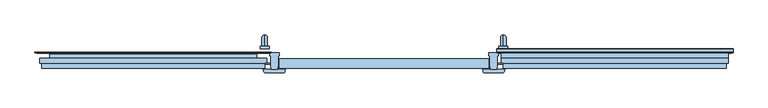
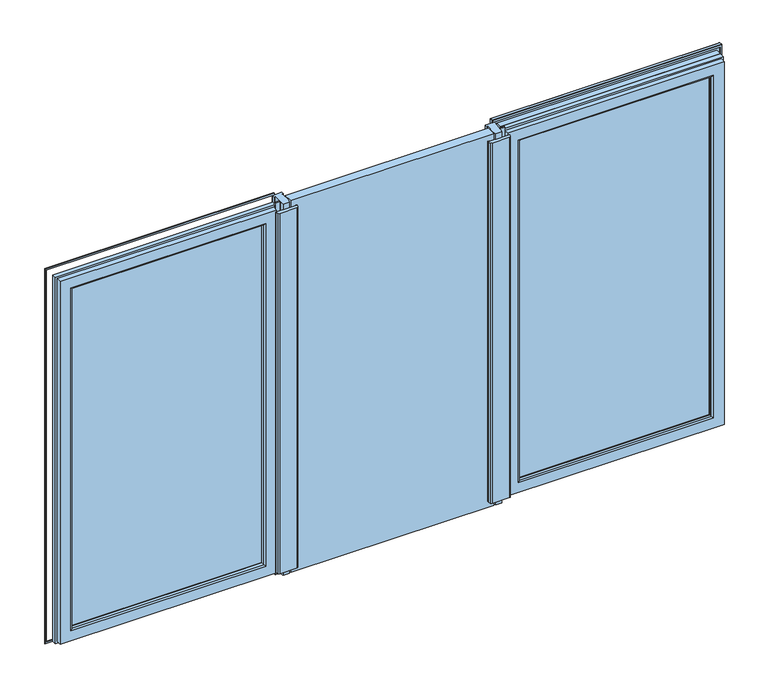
"""IFC4 building model written with IfcOpenShell, lengths in millimetres: window geometry, BZ1_Windows_Opening-Hinge_S9000_Three-Piece-Window-Turn-Tilt : Windows_Opening-Hinge_S9000_Three-Piece-Window-Turn-Tilt."""

from ifc_helpers import new_model, si_unit, frame, origin, place, context, project, spatial, polyline, circle_curve, ellipse_curve, outline, extrude, source, transform, mapped, element, save
from ifc_brep_helpers import plane_surface, cylinder_surface, advanced_brep


def window_0894faee(model_context):
    return source(origin(), model_context, "Body", "SolidModel", [
        advanced_brep(
        [(495.3666667, 128.5, 1781.5), (495.3666667, 128.5, 1758.5), (495.3666667, 152.0, 1758.5), (495.3666667, 175.0, 1781.5), (495.3666667, 175.0, 1653.0), (495.3666667, 152.0, 1653.0)],
        [
            (0, 1, circle_curve(frame((495.3666667, 128.5, 1770.0), z_axis=(0.0, -1.0, 0.0), x_axis=(0.0, 0.0, -1.0)), 11.5)),
            (1, 0, circle_curve(frame((495.3666667, 128.5, 1770.0), z_axis=(0.0, -1.0, 0.0), x_axis=(0.0, 0.0, -1.0)), 11.5)),
            (1, 2),
            (2, 3, ellipse_curve(frame((495.3666667, 163.5, 1770.0), z_axis=(0.0, -0.7071067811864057, 0.7071067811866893), x_axis=(0.0, -0.7071067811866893, -0.7071067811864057)), 16.263456, 11.5)),
            (3, 0),
            (3, 2, ellipse_curve(frame((495.3666667, 163.5, 1770.0), z_axis=(0.0, -0.7071067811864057, 0.7071067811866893), x_axis=(0.0, -0.7071067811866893, -0.7071067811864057)), 16.263456, 11.5)),
            (4, 5, circle_curve(frame((495.3666667, 163.5, 1653.0), z_axis=(0.0, 0.0, -1.0), x_axis=(0.0, -1.0, 0.0)), 11.5)),
            (5, 4, circle_curve(frame((495.3666667, 163.5, 1653.0), z_axis=(0.0, 0.0, -1.0), x_axis=(0.0, -1.0, 0.0)), 11.5)),
            (2, 5),
            (4, 3),
        ],
        [
            plane_surface(frame((495.3666667, 128.5, 1770.0), z_axis=(0.0, -1.0, 0.0), x_axis=(1.0, 0.0, 0.0))),
            cylinder_surface(frame((495.3666667, 128.5, 1770.0), z_axis=(0.0, -1.0, 0.0), x_axis=(0.0, 0.0, -1.0)), 11.5),
            plane_surface(frame((495.3666667, 163.5, 1653.0), z_axis=(0.0, 0.0, -1.0), x_axis=(1.0, 0.0, 0.0))),
            cylinder_surface(frame((495.3666667, 163.5, 1770.0), z_axis=(0.0, 0.0, 1.0), x_axis=(0.0, -1.0, 0.0)), 11.5),
        ],
        [
            (0, [[1, 2]]),
            (1, [[3, 4, 5, -2]]),
            (1, [[-5, 6, -3, -1]]),
            (2, [[7, 8]]),
            (3, [[9, -7, 10, -4]]),
            (3, [[-10, -8, -9, -6]]),
        ],
    ),
        extrude(outline(polyline([(513.8666667, 118.5), (476.8666667, 118.5), (476.8666667, 128.5), (513.8666667, 128.5), (513.8666667, 118.5)])), frame((0.0, 0.0, 1711.0), z_axis=(0.0, 0.0, 1.0), x_axis=(1.0, 0.0, 0.0)), (0.0, 0.0, 1.0), 118.0),
        advanced_brep(
        [(-495.4, 128.5, 1781.5), (-495.4, 128.5, 1758.5), (-495.4, 152.0, 1758.5), (-495.4, 175.0, 1781.5), (-495.4, 175.0, 1653.0), (-495.4, 152.0, 1653.0)],
        [
            (0, 1, circle_curve(frame((-495.4, 128.5, 1770.0), z_axis=(0.0, -1.0, 0.0), x_axis=(0.0, 0.0, -1.0)), 11.5)),
            (1, 0, circle_curve(frame((-495.4, 128.5, 1770.0), z_axis=(0.0, -1.0, 0.0), x_axis=(0.0, 0.0, -1.0)), 11.5)),
            (1, 2),
            (2, 3, ellipse_curve(frame((-495.4, 163.5, 1770.0), z_axis=(0.0, -0.7071067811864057, 0.7071067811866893), x_axis=(0.0, -0.7071067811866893, -0.7071067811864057)), 16.263456, 11.5)),
            (3, 0),
            (3, 2, ellipse_curve(frame((-495.4, 163.5, 1770.0), z_axis=(0.0, -0.7071067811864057, 0.7071067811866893), x_axis=(0.0, -0.7071067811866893, -0.7071067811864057)), 16.263456, 11.5)),
            (4, 5, circle_curve(frame((-495.4, 163.5, 1653.0), z_axis=(0.0, 0.0, -1.0), x_axis=(0.0, -1.0, 0.0)), 11.5)),
            (5, 4, circle_curve(frame((-495.4, 163.5, 1653.0), z_axis=(0.0, 0.0, -1.0), x_axis=(0.0, -1.0, 0.0)), 11.5)),
            (2, 5),
            (4, 3),
        ],
        [
            plane_surface(frame((-495.4, 128.5, 1770.0), z_axis=(0.0, -1.0, 0.0), x_axis=(1.0, 0.0, 0.0))),
            cylinder_surface(frame((-495.4, 128.5, 1770.0), z_axis=(0.0, -1.0, 0.0), x_axis=(0.0, 0.0, -1.0)), 11.5),
            plane_surface(frame((-495.4, 163.5, 1653.0), z_axis=(0.0, 0.0, -1.0), x_axis=(1.0, 0.0, 0.0))),
            cylinder_surface(frame((-495.4, 163.5, 1770.0), z_axis=(0.0, 0.0, 1.0), x_axis=(0.0, -1.0, 0.0)), 11.5),
        ],
        [
            (0, [[1, 2]]),
            (1, [[3, 4, 5, -2]]),
            (1, [[-5, 6, -3, -1]]),
            (2, [[7, 8]]),
            (3, [[9, -7, 10, -4]]),
            (3, [[-10, -8, -9, -6]]),
        ],
    ),
        extrude(outline(polyline([(-476.9, 118.5), (-513.9, 118.5), (-513.9, 128.5), (-476.9, 128.5), (-476.9, 118.5)])), frame((0.0, 0.0, 1711.0), z_axis=(0.0, 0.0, 1.0), x_axis=(1.0, 0.0, 0.0)), (0.0, 0.0, 1.0), 118.0),
        extrude(outline(polyline([(-434.4, 36.0), (-434.4, 76.0), (434.4, 76.0), (434.4, 36.0), (-434.4, 36.0)])), frame((0.0, 0.0, 928.0), z_axis=(0.0, 0.0, 1.0), x_axis=(1.0, 0.0, 0.0)), (0.0, 0.0, 1.0), 1684.0),
        extrude(outline(polyline([(439.4, 46.5113286), (439.4, 88.75), (435.3, 88.75), (435.3, 100.0), (475.3000009, 100.0), (475.3000009, 88.75), (471.2000009, 88.75), (471.2000009, 46.5113286), (468.221801, 32.5), (442.3781998, 32.5), (439.4, 46.5113286)])), frame((0.0, 0.0, 928.0), z_axis=(0.0, 0.0, 1.0), x_axis=(1.0, 0.0, 0.0)), (0.0, 0.0, 1.0), 1684.0),
        advanced_brep(
        [(492.9521751, 17.5, 954.0), (417.6478258, 17.5, 954.0), (411.8522708, 21.9470857, 954.0), (409.3, 31.47229, 954.0), (409.3, 32.5, 954.0), (501.3000009, 32.5, 954.0), (501.3, 31.47229, 954.0), (498.7477301, 21.9470857, 954.0), (492.9521751, 17.5, 2586.0), (498.7477301, 21.9470857, 2586.0), (501.3000009, 31.47229, 2586.0), (501.3, 32.5, 2586.0), (409.3, 32.5, 2586.0), (409.3, 31.47229, 2586.0), (411.8522708, 21.9470857, 2586.0), (417.6478258, 17.5, 2586.0)],
        [
            (0, 1),
            (1, 2, circle_curve(frame((417.6478258, 23.5, 954.0), z_axis=(0.0, 0.0, -1.0), x_axis=(0.0, -1.0, 0.0)), 6.0)),
            (2, 3),
            (3, 4),
            (4, 5),
            (5, 6),
            (6, 7),
            (7, 0, circle_curve(frame((492.9521751, 23.5, 954.0), z_axis=(0.0, 0.0, -1.0), x_axis=(0.9659258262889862, -0.2588190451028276, 0.0)), 6.0)),
            (8, 9, circle_curve(frame((492.9521751, 23.5, 2586.0), z_axis=(0.0, 0.0, 1.0), x_axis=(0.9659258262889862, -0.2588190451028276, 0.0)), 6.0)),
            (9, 10),
            (10, 11),
            (11, 12),
            (12, 13),
            (13, 14),
            (14, 15, circle_curve(frame((417.6478258, 23.5, 2586.0), z_axis=(0.0, 0.0, 1.0), x_axis=(0.0, -1.0, 0.0)), 6.0)),
            (15, 8),
            (7, 9),
            (8, 0),
            (6, 10),
            (5, 11),
            (4, 12),
            (3, 13),
            (2, 14),
            (1, 15),
        ],
        [
            plane_surface(frame((455.3, 100.0, 954.0), z_axis=(0.0, 0.0, -1.0), x_axis=(1.0, 0.0, 0.0))),
            plane_surface(frame((455.3, 100.0, 2586.0), z_axis=(0.0, 0.0, 1.0), x_axis=(1.0, 0.0, 0.0))),
            cylinder_surface(frame((492.9521751, 23.5, 954.0), z_axis=(0.0, 0.0, -1.0000000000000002), x_axis=(0.9659258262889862, -0.2588190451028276, 0.0)), 6.0),
            plane_surface(frame((498.7477301, 21.9470857, 954.0), z_axis=(0.9659258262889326, -0.25881904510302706, 0.0), x_axis=(0.0, 0.0, 1.0))),
            plane_surface(frame((501.3, 31.47229, 954.0), z_axis=(1.0, 0.0, 0.0), x_axis=(0.0, 0.0, 1.0))),
            plane_surface(frame((417.1104076, 32.5, 954.0), z_axis=(0.0, 1.0, 0.0), x_axis=(0.0, 0.0, 1.0))),
            plane_surface(frame((409.3, 32.5, 954.0), z_axis=(-1.0, 0.0, 0.0), x_axis=(0.0, 0.0, 1.0))),
            plane_surface(frame((409.3, 31.47229, 954.0), z_axis=(-0.9659258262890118, -0.25881904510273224, 0.0), x_axis=(0.0, 0.0, 1.0))),
            cylinder_surface(frame((417.6478258, 23.5, 954.0), z_axis=(0.0, 0.0, -1.0), x_axis=(0.0, -1.0, 0.0)), 6.0),
            plane_surface(frame((417.6478258, 17.5, 954.0), z_axis=(0.0, -1.0, 0.0), x_axis=(0.0, 0.0, 1.0))),
        ],
        [
            (0, [[1, 2, 3, 4, 5, 6, 7, 8]]),
            (1, [[9, 10, 11, 12, 13, 14, 15, 16]]),
            (2, [[17, -9, 18, -8]]),
            (3, [[19, -10, -17, -7]]),
            (4, [[20, -11, -19, -6]]),
            (5, [[-5, 21, -12, -20]]),
            (6, [[22, -13, -21, -4]]),
            (7, [[23, -14, -22, -3]]),
            (8, [[24, -15, -23, -2]]),
            (9, [[-18, -16, -24, -1]]),
        ],
    ),
        extrude(outline(polyline([(-471.2, 46.5113286), (-471.2, 88.75), (-475.3, 88.75), (-475.3, 100.0), (-435.2999991, 100.0), (-435.2999991, 88.75), (-439.3999991, 88.75), (-439.3999991, 46.5113286), (-442.378199, 32.5), (-468.2218002, 32.5), (-471.2, 46.5113286)])), frame((0.0, 0.0, 928.0), z_axis=(0.0, 0.0, 1.0), x_axis=(1.0, 0.0, 0.0)), (0.0, 0.0, 1.0), 1684.0),
        advanced_brep(
        [(-417.6478249, 17.5, 954.0), (-492.9521742, 17.5, 954.0), (-498.7477292, 21.9470857, 954.0), (-501.3, 31.47229, 954.0), (-501.3, 32.5, 954.0), (-409.2999991, 32.5, 954.0), (-409.3, 31.47229, 954.0), (-411.8522699, 21.9470857, 954.0), (-417.6478249, 17.5, 2586.0), (-411.8522699, 21.9470857, 2586.0), (-409.2999991, 31.47229, 2586.0), (-409.3, 32.5, 2586.0), (-501.3, 32.5, 2586.0), (-501.3, 31.47229, 2586.0), (-498.7477292, 21.9470857, 2586.0), (-492.9521742, 17.5, 2586.0)],
        [
            (0, 1),
            (1, 2, circle_curve(frame((-492.9521742, 23.5, 954.0), z_axis=(0.0, 0.0, -1.0), x_axis=(0.0, -1.0, 0.0)), 6.0)),
            (2, 3),
            (3, 4),
            (4, 5),
            (5, 6),
            (6, 7),
            (7, 0, circle_curve(frame((-417.6478249, 23.5, 954.0), z_axis=(0.0, 0.0, -1.0), x_axis=(0.9659258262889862, -0.2588190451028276, 0.0)), 6.0)),
            (8, 9, circle_curve(frame((-417.6478249, 23.5, 2586.0), z_axis=(0.0, 0.0, 1.0), x_axis=(0.9659258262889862, -0.2588190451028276, 0.0)), 6.0)),
            (9, 10),
            (10, 11),
            (11, 12),
            (12, 13),
            (13, 14),
            (14, 15, circle_curve(frame((-492.9521742, 23.5, 2586.0), z_axis=(0.0, 0.0, 1.0), x_axis=(0.0, -1.0, 0.0)), 6.0)),
            (15, 8),
            (7, 9),
            (8, 0),
            (6, 10),
            (5, 11),
            (4, 12),
            (3, 13),
            (2, 14),
            (1, 15),
        ],
        [
            plane_surface(frame((-455.3, 100.0, 954.0), z_axis=(0.0, 0.0, -1.0), x_axis=(1.0, 0.0, 0.0))),
            plane_surface(frame((-455.3, 100.0, 2586.0), z_axis=(0.0, 0.0, 1.0), x_axis=(1.0, 0.0, 0.0))),
            cylinder_surface(frame((-417.6478249, 23.5, 954.0), z_axis=(0.0, 0.0, -1.0000000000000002), x_axis=(0.9659258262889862, -0.2588190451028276, 0.0)), 6.0),
            plane_surface(frame((-411.8522699, 21.9470857, 954.0), z_axis=(0.9659258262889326, -0.25881904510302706, 0.0), x_axis=(0.0, 0.0, 1.0))),
            plane_surface(frame((-409.3, 31.47229, 954.0), z_axis=(1.0, 0.0, 0.0), x_axis=(0.0, 0.0, 1.0))),
            plane_surface(frame((-493.4895924, 32.5, 954.0), z_axis=(0.0, 1.0, 0.0), x_axis=(0.0, 0.0, 1.0))),
            plane_surface(frame((-501.3, 32.5, 954.0), z_axis=(-1.0, 0.0, 0.0), x_axis=(0.0, 0.0, 1.0))),
            plane_surface(frame((-501.3, 31.47229, 954.0), z_axis=(-0.9659258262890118, -0.25881904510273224, 0.0), x_axis=(0.0, 0.0, 1.0))),
            cylinder_surface(frame((-492.9521742, 23.5, 954.0), z_axis=(0.0, 0.0, -1.0), x_axis=(0.0, -1.0, 0.0)), 6.0),
            plane_surface(frame((-492.9521742, 17.5, 954.0), z_axis=(0.0, -1.0, 0.0), x_axis=(0.0, 0.0, 1.0))),
        ],
        [
            (0, [[1, 2, 3, 4, 5, 6, 7, 8]]),
            (1, [[9, 10, 11, 12, 13, 14, 15, 16]]),
            (2, [[17, -9, 18, -8]]),
            (3, [[19, -10, -17, -7]]),
            (4, [[20, -11, -19, -6]]),
            (5, [[-5, 21, -12, -20]]),
            (6, [[22, -13, -21, -4]]),
            (7, [[23, -14, -22, -3]]),
            (8, [[24, -15, -23, -2]]),
            (9, [[-18, -16, -24, -1]]),
        ],
    ),
        extrude(outline(polyline([(492.3000009, 52.2), (471.2000009, 52.2), (471.2000009, 57.5), (492.3000009, 57.5), (492.3000009, 52.2)])), frame((0.0, 0.0, 928.0), z_axis=(0.0, 0.0, 1.0), x_axis=(1.0, 0.0, 0.0)), (0.0, 0.0, 1.0), 1684.0),
        extrude(outline(polyline([(-492.3, 52.2), (-492.3, 57.5), (-471.2, 57.5), (-471.2, 52.2), (-492.3, 52.2)])), frame((0.0, 0.0, 928.0), z_axis=(0.0, 0.0, 1.0), x_axis=(1.0, 0.0, 0.0)), (0.0, 0.0, 1.0), 1684.0),
        extrude(outline(polyline([(417.1, 36.0), (417.1, 32.5), (409.3, 32.5), (409.3, 36.0), (417.1, 36.0)])), frame((0.0, 0.0, 954.0), z_axis=(0.0, 0.0, 1.0), x_axis=(1.0, 0.0, 0.0)), (0.0, 0.0, 1.0), 1632.0),
        extrude(outline(polyline([(-417.0999991, 36.0), (-409.2999991, 36.0), (-409.2999991, 32.5), (-417.0999991, 32.5), (-417.0999991, 36.0)])), frame((0.0, 0.0, 954.0), z_axis=(0.0, 0.0, 1.0), x_axis=(1.0, 0.0, 0.0)), (0.0, 0.0, 1.0), 1632.0),
        extrude(outline(polyline([(528.4, 54.0), (528.4, 94.0), (1389.0, 94.0), (1389.0, 54.0), (528.4, 54.0)])), frame((0.0, 0.0, 980.9999996), z_axis=(0.0, 0.0, 1.0), x_axis=(1.0, 0.0, 0.0)), (0.0, 0.0, 1.0), 1578.0),
        extrude(outline(polyline([(994.7999996, 1375.2), (2545.1999996, 1375.2), (2545.1999996, 542.2), (994.7999996, 542.2), (994.7999996, 1375.2)]), holes=[polyline([(2537.9999996, 1368.0), (1001.9999996, 1368.0), (1001.9999996, 549.4), (2537.9999996, 549.4), (2537.9999996, 1368.0)])]), frame((0.0, 51.0, 0.0), z_axis=(0.0, 1.0, 0.0), x_axis=(0.0, 0.0, 1.0)), (0.0, 0.0, 1.0), 3.0),
        extrude(outline(polyline([(990.4987824, 1379.5012172), (2549.5012168, 1379.5012172), (2549.5012168, 537.8987828), (990.4987824, 537.8987828), (990.4987824, 1379.5012172)]), holes=[polyline([(2538.0012168, 1368.0012172), (1001.9987824, 1368.0012172), (1001.9987824, 549.3987828), (2538.0012168, 549.3987828), (2538.0012168, 1368.0012172)])]), frame((0.0, 94.0, 0.0), z_axis=(0.0, 1.0, 0.0), x_axis=(0.0, 0.0, 1.0)), (0.0, 0.0, 1.0), 2.5),
        extrude(outline(polyline([(2619.9999996, 467.4), (919.9999996, 467.4), (919.9999996, 1450.0), (2619.9999996, 1450.0), (2619.9999996, 467.4)]), holes=[polyline([(927.9999996, 475.4), (2611.9999996, 475.4), (2611.9999996, 1442.0), (927.9999996, 1442.0), (927.9999996, 475.4)])]), frame((0.0, 100.0, 0.0), z_axis=(0.0, 1.0, 0.0), x_axis=(0.0, 0.0, 1.0)), (0.0, 0.0, 1.0), 3.5),
        advanced_brep(
        [(541.0543275, 36.0, 2546.3456721), (541.0543275, 36.0, 993.6543271), (546.8498824, 40.4470857, 999.449882), (546.8498824, 40.4470857, 2540.5501171), (495.4, 57.5, 2591.9999996), (495.4, 57.5, 947.9999996), (495.4, 36.0, 947.9999996), (495.4, 36.0, 2591.9999996), (487.4, 77.5, 2599.9999996), (487.4, 77.5, 939.9999996), (487.4, 57.5, 939.9999996), (487.4, 57.5, 2599.9999996), (519.3, 65.0001206, 2568.0999996), (519.3, 65.0001206, 971.8999996), (519.3, 77.5, 971.8999996), (519.3, 77.5, 2568.0999996), (516.3241825, 51.0, 2571.0758171), (516.3241825, 51.0, 968.9241821), (549.4, 49.964254, 2537.9999996), (549.4, 49.964254, 1001.9999996), (549.4, 51.0, 1001.9999996), (549.4, 51.0, 2537.9999996), (1376.3456725, 36.0, 993.6543271), (1370.5501176, 40.4470857, 999.449882), (1422.0, 57.5, 947.9999996), (1422.0, 36.0, 947.9999996), (1430.0, 77.5, 939.9999996), (1430.0, 57.5, 939.9999996), (1398.1, 65.0001206, 971.8999996), (1398.1, 77.5, 971.8999996), (1401.0758175, 51.0, 968.9241821), (1368.0, 49.964254, 1001.9999996), (1368.0, 51.0, 1001.9999996), (1376.3456725, 36.0, 2546.3456721), (1370.5501176, 40.4470857, 2540.5501171), (1422.0, 57.5, 2591.9999996), (1422.0, 36.0, 2591.9999996), (1430.0, 77.5, 2599.9999996), (1430.0, 57.5, 2599.9999996), (1398.1, 65.0001206, 2568.0999996), (1398.1, 77.5, 2568.0999996), (1401.0758175, 51.0, 2571.0758171), (1368.0, 49.964254, 2537.9999996), (1368.0, 51.0, 2537.9999996)],
        [
            (0, 1),
            (1, 2, ellipse_curve(frame((541.0543275, 42.0, 993.6543271), z_axis=(-0.7071067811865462, 0.0, 0.707106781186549), x_axis=(0.7071067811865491, 0.0, 0.7071067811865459)), 8.4852814, 6.0)),
            (2, 3),
            (3, 0, ellipse_curve(frame((541.0543275, 42.0, 2546.3456721), z_axis=(-0.7071067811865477, 0.0, -0.7071067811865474), x_axis=(-0.7071067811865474, 0.0, 0.7071067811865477)), 8.4852814, 6.0)),
            (4, 5),
            (5, 6),
            (6, 7),
            (7, 4),
            (8, 9),
            (9, 10),
            (10, 11),
            (11, 8),
            (12, 13),
            (13, 14),
            (14, 15),
            (15, 12),
            (16, 17),
            (17, 13),
            (12, 16),
            (18, 19),
            (19, 20),
            (20, 21),
            (21, 18),
            (2, 19),
            (18, 3),
            (1, 22),
            (22, 23, ellipse_curve(frame((1376.3456725, 42.0, 993.6543271), z_axis=(-0.7071067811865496, 0.0, -0.7071067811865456), x_axis=(-0.7071067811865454, 0.0, 0.7071067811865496)), 8.4852814, 6.0)),
            (23, 2),
            (5, 24),
            (24, 25),
            (25, 6),
            (9, 26),
            (26, 27),
            (27, 10),
            (13, 28),
            (28, 29),
            (29, 14),
            (17, 30),
            (30, 28),
            (19, 31),
            (31, 32),
            (32, 20),
            (23, 31),
            (22, 33),
            (33, 34, ellipse_curve(frame((1376.3456725, 42.0, 2546.3456721), z_axis=(0.7071067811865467, 0.0, -0.7071067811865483), x_axis=(-0.7071067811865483, 0.0, -0.7071067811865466)), 8.4852814, 6.0)),
            (34, 23),
            (24, 35),
            (35, 36),
            (36, 25),
            (26, 37),
            (37, 38),
            (38, 27),
            (28, 39),
            (39, 40),
            (40, 29),
            (30, 41),
            (41, 39),
            (31, 42),
            (42, 43),
            (43, 32),
            (34, 42),
            (33, 0),
            (3, 34),
            (36, 7),
            (35, 4),
            (38, 11),
            (37, 8),
            (40, 15),
            (39, 12),
            (41, 16),
            (43, 21),
            (42, 18),
        ],
        [
            cylinder_surface(frame((541.0543275, 42.0, 2619.9999996), z_axis=(0.0, 0.0, 1.0), x_axis=(0.0, -1.0, 0.0)), 6.0),
            plane_surface(frame((495.4, 36.0, 2591.9999996), z_axis=(-1.0, 0.0, 0.0), x_axis=(0.0, 0.0, -1.0))),
            plane_surface(frame((487.4, 57.5, 2599.9999996), z_axis=(-1.0, 0.0, 0.0), x_axis=(0.0, 0.0, -1.0))),
            plane_surface(frame((519.3, 77.5, 2568.0999996), z_axis=(1.0, 0.0, 0.0), x_axis=(0.0, 0.0, -1.0))),
            plane_surface(frame((519.3, 65.0001206, 2568.0999996), z_axis=(0.9781476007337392, -0.20791169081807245, 0.0), x_axis=(0.0, 0.0, -1.0))),
            plane_surface(frame((549.4, 51.0, 2537.9999996), z_axis=(1.0, 0.0, 0.0), x_axis=(0.0, 0.0, -1.0))),
            plane_surface(frame((549.4, 49.964254, 2537.9999996), z_axis=(0.9659258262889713, -0.2588190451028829, 0.0), x_axis=(0.0, 0.0, -1.0))),
            cylinder_surface(frame((467.4, 42.0, 993.6543271), z_axis=(-1.0, 0.0, 0.0), x_axis=(0.0, -1.0, 0.0)), 6.0),
            plane_surface(frame((495.4, 36.0, 947.9999996), z_axis=(0.0, 0.0, -1.0), x_axis=(1.0, 0.0, 0.0))),
            plane_surface(frame((487.4, 57.5, 939.9999996), z_axis=(0.0, 0.0, -1.0), x_axis=(1.0, 0.0, 0.0))),
            plane_surface(frame((519.3, 77.5, 971.8999996), z_axis=(0.0, 0.0, 1.0), x_axis=(1.0, 0.0, 0.0))),
            plane_surface(frame((519.3, 65.0001206, 971.8999996), z_axis=(0.0, -0.20791169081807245, 0.9781476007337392), x_axis=(1.0, 0.0, 0.0))),
            plane_surface(frame((549.4, 51.0, 1001.9999996), z_axis=(0.0, 0.0, 1.0), x_axis=(1.0, 0.0, 0.0))),
            plane_surface(frame((549.4, 49.964254, 1001.9999996), z_axis=(0.0, -0.2588190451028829, 0.9659258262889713), x_axis=(1.0, 0.0, 0.0))),
            cylinder_surface(frame((1376.3456725, 42.0, 919.9999996), z_axis=(0.0, 0.0, -1.0), x_axis=(0.0, -1.0, 0.0)), 6.0),
            plane_surface(frame((1422.0, 36.0, 947.9999996), z_axis=(1.0, 0.0, 0.0), x_axis=(0.0, 0.0, 1.0))),
            plane_surface(frame((1430.0, 57.5, 939.9999996), z_axis=(1.0, 0.0, 0.0), x_axis=(0.0, 0.0, 1.0))),
            plane_surface(frame((1398.1, 77.5, 971.8999996), z_axis=(-1.0, 0.0, 0.0), x_axis=(0.0, 0.0, 1.0))),
            plane_surface(frame((1398.1, 65.0001206, 971.8999996), z_axis=(-0.9781476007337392, -0.20791169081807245, 0.0), x_axis=(0.0, 0.0, 1.0))),
            plane_surface(frame((1368.0, 51.0, 1001.9999996), z_axis=(-1.0, 0.0, 0.0), x_axis=(0.0, 0.0, 1.0))),
            plane_surface(frame((1368.0, 49.964254, 1001.9999996), z_axis=(-0.9659258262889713, -0.2588190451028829, 0.0), x_axis=(0.0, 0.0, 1.0))),
            cylinder_surface(frame((1450.0, 42.0, 2546.3456721), z_axis=(1.0, 0.0, 0.0), x_axis=(0.0, -1.0, 0.0)), 6.0),
            plane_surface(frame((1376.3456725, 36.0, 2546.3456721), z_axis=(0.0, -1.0, 0.0), x_axis=(-1.0, 0.0, 0.0))),
            plane_surface(frame((1422.0, 36.0, 2591.9999996), z_axis=(0.0, 0.0, 1.0), x_axis=(-1.0, 0.0, 0.0))),
            plane_surface(frame((1422.0, 57.5, 2591.9999996), z_axis=(0.0, -1.0, 0.0), x_axis=(-1.0, 0.0, 0.0))),
            plane_surface(frame((1430.0, 57.5, 2599.9999996), z_axis=(0.0, 0.0, 1.0), x_axis=(-1.0, 0.0, 0.0))),
            plane_surface(frame((1430.0, 77.5, 2599.9999996), z_axis=(0.0, 1.0, 0.0), x_axis=(-1.0, 0.0, 0.0))),
            plane_surface(frame((1398.1, 77.5, 2568.0999996), z_axis=(0.0, 0.0, -1.0), x_axis=(-1.0, 0.0, 0.0))),
            plane_surface(frame((1398.1, 65.0001206, 2568.0999996), z_axis=(0.0, -0.20791169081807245, -0.9781476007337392), x_axis=(-1.0, 0.0, 0.0))),
            plane_surface(frame((1369.0, 51.0, 2538.9999996), z_axis=(0.0, 1.0, 0.0), x_axis=(-1.0, 0.0, 0.0))),
            plane_surface(frame((1368.0, 51.0, 2537.9999996), z_axis=(0.0, 0.0, -1.0), x_axis=(-1.0, 0.0, 0.0))),
            plane_surface(frame((1368.0, 49.964254, 2537.9999996), z_axis=(0.0, -0.2588190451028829, -0.9659258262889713), x_axis=(-1.0, 0.0, 0.0))),
        ],
        [
            (0, [[1, 2, 3, 4]]),
            (1, [[5, 6, 7, 8]]),
            (2, [[9, 10, 11, 12]]),
            (3, [[13, 14, 15, 16]]),
            (4, [[17, 18, -13, 19]]),
            (5, [[20, 21, 22, 23]]),
            (6, [[-3, 24, -20, 25]]),
            (7, [[26, 27, 28, -2]]),
            (8, [[29, 30, 31, -6]]),
            (9, [[32, 33, 34, -10]]),
            (10, [[35, 36, 37, -14]]),
            (11, [[38, 39, -35, -18]]),
            (12, [[40, 41, 42, -21]]),
            (13, [[-28, 43, -40, -24]]),
            (14, [[44, 45, 46, -27]]),
            (15, [[47, 48, 49, -30]]),
            (16, [[50, 51, 52, -33]]),
            (17, [[53, 54, 55, -36]]),
            (18, [[56, 57, -53, -39]]),
            (19, [[58, 59, 60, -41]]),
            (20, [[-46, 61, -58, -43]]),
            (21, [[62, -4, 63, -45]]),
            (22, [[-7, -31, -49, 64], [-1, -62, -44, -26]]),
            (23, [[65, -8, -64, -48]]),
            (24, [[-11, -34, -52, 66], [-5, -65, -47, -29]]),
            (25, [[67, -12, -66, -51]]),
            (26, [[-9, -67, -50, -32], [-15, -37, -55, 68]]),
            (27, [[69, -16, -68, -54]]),
            (28, [[70, -19, -69, -57]]),
            (29, [[-17, -70, -56, -38], [-22, -42, -60, 71]]),
            (30, [[72, -23, -71, -59]]),
            (31, [[-63, -25, -72, -61]]),
        ],
    ),
        advanced_brep(
        [(523.4, 107.25, 2563.9999996), (523.4, 107.25, 975.9999996), (523.4, 118.5, 975.9999996), (523.4, 118.5, 2563.9999996), (519.3, 77.5, 2568.0999996), (519.3, 77.5, 971.8999996), (519.3, 107.25, 971.8999996), (519.3, 107.25, 2568.0999996), (487.4, 103.5, 2599.9999996), (487.4, 103.5, 939.9999996), (487.4, 77.5, 939.9999996), (487.4, 77.5, 2599.9999996), (467.4, 116.0, 2619.9999996), (467.4, 116.0, 919.9999996), (467.4, 103.5, 919.9999996), (467.4, 103.5, 2619.9999996), (469.9, 118.5, 2617.4999996), (469.9, 118.5, 922.4999996), (1394.0, 107.25, 975.9999996), (1394.0, 118.5, 975.9999996), (1398.1, 77.5, 971.8999996), (1398.1, 107.25, 971.8999996), (1430.0, 103.5, 939.9999996), (1430.0, 77.5, 939.9999996), (1450.0, 116.0, 919.9999996), (1450.0, 103.5, 919.9999996), (1447.5, 118.5, 922.4999996), (1394.0, 107.25, 2563.9999996), (1394.0, 118.5, 2563.9999996), (1398.1, 77.5, 2568.0999996), (1398.1, 107.25, 2568.0999996), (1430.0, 103.5, 2599.9999996), (1430.0, 77.5, 2599.9999996), (1450.0, 116.0, 2619.9999996), (1450.0, 103.5, 2619.9999996), (1447.5, 118.5, 2617.4999996)],
        [
            (0, 1),
            (1, 2),
            (2, 3),
            (3, 0),
            (4, 5),
            (5, 6),
            (6, 7),
            (7, 4),
            (8, 9),
            (9, 10),
            (10, 11),
            (11, 8),
            (12, 13),
            (13, 14),
            (14, 15),
            (15, 12),
            (16, 17),
            (17, 13, ellipse_curve(frame((469.9, 116.0, 922.4999996), z_axis=(-0.7071067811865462, 0.0, 0.707106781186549), x_axis=(0.7071067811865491, 0.0, 0.7071067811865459)), 3.5355339, 2.5)),
            (12, 16, ellipse_curve(frame((469.9, 116.0, 2617.4999996), z_axis=(-0.7071067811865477, 0.0, -0.7071067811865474), x_axis=(-0.7071067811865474, 0.0, 0.7071067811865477)), 3.5355339, 2.5)),
            (1, 18),
            (18, 19),
            (19, 2),
            (5, 20),
            (20, 21),
            (21, 6),
            (9, 22),
            (22, 23),
            (23, 10),
            (13, 24),
            (24, 25),
            (25, 14),
            (17, 26),
            (26, 24, ellipse_curve(frame((1447.5, 116.0, 922.4999996), z_axis=(-0.7071067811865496, 0.0, -0.7071067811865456), x_axis=(-0.7071067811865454, 0.0, 0.7071067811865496)), 3.5355339, 2.5)),
            (18, 27),
            (27, 28),
            (28, 19),
            (20, 29),
            (29, 30),
            (30, 21),
            (22, 31),
            (31, 32),
            (32, 23),
            (24, 33),
            (33, 34),
            (34, 25),
            (26, 35),
            (35, 33, ellipse_curve(frame((1447.5, 116.0, 2617.4999996), z_axis=(0.7071067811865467, 0.0, -0.7071067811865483), x_axis=(-0.7071067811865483, 0.0, -0.7071067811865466)), 3.5355339, 2.5)),
            (16, 35),
            (28, 3),
            (27, 0),
            (30, 7),
            (29, 4),
            (32, 11),
            (31, 8),
            (34, 15),
            (33, 12),
        ],
        [
            plane_surface(frame((523.4, 118.5, 2563.9999996), z_axis=(1.0, 0.0, 0.0), x_axis=(0.0, 0.0, -1.0))),
            plane_surface(frame((519.3, 107.25, 2568.0999996), z_axis=(1.0, 0.0, 0.0), x_axis=(0.0, 0.0, -1.0))),
            plane_surface(frame((487.4, 77.5, 2599.9999996), z_axis=(-1.0, 0.0, 0.0), x_axis=(0.0, 0.0, -1.0))),
            plane_surface(frame((467.4, 103.5, 2619.9999996), z_axis=(-1.0, 0.0, 0.0), x_axis=(0.0, 0.0, -1.0))),
            cylinder_surface(frame((469.9, 116.0, 2619.9999996), z_axis=(0.0, 0.0, 1.0), x_axis=(0.0, 1.0, 0.0)), 2.5),
            plane_surface(frame((523.4, 118.5, 975.9999996), z_axis=(0.0, 0.0, 1.0), x_axis=(1.0, 0.0, 0.0))),
            plane_surface(frame((519.3, 107.25, 971.8999996), z_axis=(0.0, 0.0, 1.0), x_axis=(1.0, 0.0, 0.0))),
            plane_surface(frame((487.4, 77.5, 939.9999996), z_axis=(0.0, 0.0, -1.0), x_axis=(1.0, 0.0, 0.0))),
            plane_surface(frame((467.4, 103.5, 919.9999996), z_axis=(0.0, 0.0, -1.0), x_axis=(1.0, 0.0, 0.0))),
            cylinder_surface(frame((467.4, 116.0, 922.4999996), z_axis=(-1.0, 0.0, 0.0), x_axis=(0.0, 1.0, 0.0)), 2.5),
            plane_surface(frame((1394.0, 118.5, 975.9999996), z_axis=(-1.0, 0.0, 0.0), x_axis=(0.0, 0.0, 1.0))),
            plane_surface(frame((1398.1, 107.25, 971.8999996), z_axis=(-1.0, 0.0, 0.0), x_axis=(0.0, 0.0, 1.0))),
            plane_surface(frame((1430.0, 77.5, 939.9999996), z_axis=(1.0, 0.0, 0.0), x_axis=(0.0, 0.0, 1.0))),
            plane_surface(frame((1450.0, 103.5, 919.9999996), z_axis=(1.0, 0.0, 0.0), x_axis=(0.0, 0.0, 1.0))),
            cylinder_surface(frame((1447.5, 116.0, 919.9999996), z_axis=(0.0, 0.0, -1.0), x_axis=(0.0, 1.0, 0.0)), 2.5),
            plane_surface(frame((1447.5, 118.5, 2617.4999996), z_axis=(0.0, 1.0, 0.0), x_axis=(-1.0, 0.0, 0.0))),
            plane_surface(frame((1394.0, 118.5, 2563.9999996), z_axis=(0.0, 0.0, -1.0), x_axis=(-1.0, 0.0, 0.0))),
            plane_surface(frame((1394.0, 107.25, 2563.9999996), z_axis=(0.0, -1.0, 0.0), x_axis=(-1.0, 0.0, 0.0))),
            plane_surface(frame((1398.1, 107.25, 2568.0999996), z_axis=(0.0, 0.0, -1.0), x_axis=(-1.0, 0.0, 0.0))),
            plane_surface(frame((1398.1, 77.5, 2568.0999996), z_axis=(0.0, -1.0, 0.0), x_axis=(-1.0, 0.0, 0.0))),
            plane_surface(frame((1430.0, 77.5, 2599.9999996), z_axis=(0.0, 0.0, 1.0), x_axis=(-1.0, 0.0, 0.0))),
            plane_surface(frame((1449.0, 103.5, 2618.9999996), z_axis=(0.0, -1.0, 0.0), x_axis=(-1.0, 0.0, 0.0))),
            plane_surface(frame((1450.0, 103.5, 2619.9999996), z_axis=(0.0, 0.0, 1.0), x_axis=(-1.0, 0.0, 0.0))),
            cylinder_surface(frame((1450.0, 116.0, 2617.4999996), z_axis=(1.0, 0.0, 0.0), x_axis=(0.0, 1.0, 0.0)), 2.5),
        ],
        [
            (0, [[1, 2, 3, 4]]),
            (1, [[5, 6, 7, 8]]),
            (2, [[9, 10, 11, 12]]),
            (3, [[13, 14, 15, 16]]),
            (4, [[17, 18, -13, 19]]),
            (5, [[20, 21, 22, -2]]),
            (6, [[23, 24, 25, -6]]),
            (7, [[26, 27, 28, -10]]),
            (8, [[29, 30, 31, -14]]),
            (9, [[32, 33, -29, -18]]),
            (10, [[34, 35, 36, -21]]),
            (11, [[37, 38, 39, -24]]),
            (12, [[40, 41, 42, -27]]),
            (13, [[43, 44, 45, -30]]),
            (14, [[46, 47, -43, -33]]),
            (15, [[-17, 48, -46, -32], [-3, -22, -36, 49]]),
            (16, [[50, -4, -49, -35]]),
            (17, [[-7, -25, -39, 51], [-1, -50, -34, -20]]),
            (18, [[52, -8, -51, -38]]),
            (19, [[-11, -28, -42, 53], [-5, -52, -37, -23]]),
            (20, [[54, -12, -53, -41]]),
            (21, [[-15, -31, -45, 55], [-9, -54, -40, -26]]),
            (22, [[56, -16, -55, -44]]),
            (23, [[-48, -19, -56, -47]]),
        ],
    ),
        advanced_brep(
        [(545.5040168, 112.5529143, 2541.8959828), (545.5040168, 112.5529143, 998.1040164), (539.7084619, 117.0, 992.3084614), (539.7084619, 117.0, 2547.6915377), (549.3987828, 98.0174497, 2538.0012168), (549.3987828, 98.0174497, 1001.9987824), (549.3987828, 96.5, 2538.0012168), (549.3987828, 96.5, 1001.9987824), (536.2567747, 101.5, 2551.1432248), (536.2567747, 101.5, 988.8567743), (537.5965207, 96.5, 990.1965203), (537.5965207, 96.5, 2549.8034789), (523.4, 101.5, 2563.9999996), (523.4, 117.0, 2563.9999996), (523.4, 117.0, 975.9999996), (523.4, 101.5, 975.9999996), (1371.8959832, 112.5529143, 998.1040164), (1377.6915381, 117.0, 992.3084614), (1368.0012172, 98.0174497, 1001.9987824), (1368.0012172, 96.5, 1001.9987824), (1381.1432253, 101.5, 988.8567743), (1379.8034793, 96.5, 990.1965203), (1394.0, 117.0, 975.9999996), (1394.0, 101.5, 975.9999996), (1371.8959832, 112.5529143, 2541.8959828), (1377.6915381, 117.0, 2547.6915377), (1368.0012172, 98.0174497, 2538.0012168), (1368.0012172, 96.5, 2538.0012168), (1381.1432253, 101.5, 2551.1432248), (1379.8034793, 96.5, 2549.8034789), (1394.0, 117.0, 2563.9999996), (1394.0, 101.5, 2563.9999996)],
        [
            (0, 1),
            (1, 2, ellipse_curve(frame((539.7084619, 111.0, 992.3084614), z_axis=(-0.7071067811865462, 0.0, 0.707106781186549), x_axis=(0.7071067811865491, 0.0, 0.7071067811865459)), 8.4852814, 6.0)),
            (2, 3),
            (3, 0, ellipse_curve(frame((539.7084619, 111.0, 2547.6915377), z_axis=(-0.7071067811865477, 0.0, -0.7071067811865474), x_axis=(-0.7071067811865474, 0.0, 0.7071067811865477)), 8.4852814, 6.0)),
            (4, 5),
            (5, 1),
            (0, 4),
            (6, 7),
            (7, 5),
            (4, 6),
            (8, 9),
            (9, 10),
            (10, 11),
            (11, 8),
            (12, 13),
            (13, 14),
            (14, 15),
            (15, 12),
            (1, 16),
            (16, 17, ellipse_curve(frame((1377.6915381, 111.0, 992.3084614), z_axis=(-0.7071067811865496, 0.0, -0.7071067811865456), x_axis=(-0.7071067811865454, 0.0, 0.7071067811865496)), 8.4852814, 6.0)),
            (17, 2),
            (5, 18),
            (18, 16),
            (7, 19),
            (19, 18),
            (9, 20),
            (20, 21),
            (21, 10),
            (14, 22),
            (22, 23),
            (23, 15),
            (16, 24),
            (24, 25, ellipse_curve(frame((1377.6915381, 111.0, 2547.6915377), z_axis=(0.7071067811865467, 0.0, -0.7071067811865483), x_axis=(-0.7071067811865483, 0.0, -0.7071067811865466)), 8.4852814, 6.0)),
            (25, 17),
            (18, 26),
            (26, 24),
            (19, 27),
            (27, 26),
            (20, 28),
            (28, 29),
            (29, 21),
            (22, 30),
            (30, 31),
            (31, 23),
            (24, 0),
            (3, 25),
            (26, 4),
            (27, 6),
            (29, 11),
            (28, 8),
            (31, 12),
            (30, 13),
        ],
        [
            cylinder_surface(frame((539.7084619, 111.0, 2619.9999996), z_axis=(0.0, 0.0, 1.0), x_axis=(0.9659258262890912, 0.2588190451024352, 0.0)), 6.0),
            plane_surface(frame((545.5040168, 112.5529143, 2541.8959828), z_axis=(0.9659258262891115, 0.25881904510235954, 0.0), x_axis=(0.0, 0.0, -1.0))),
            plane_surface(frame((549.3987828, 98.0174497, 2538.0012168), z_axis=(1.0, 0.0, 0.0), x_axis=(0.0, 0.0, -1.0))),
            plane_surface(frame((537.5965207, 96.5, 2549.8034789), z_axis=(-0.9659258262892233, -0.2588190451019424, 0.0), x_axis=(0.0, 0.0, -1.0))),
            plane_surface(frame((523.4, 116.0, 2563.9999996), z_axis=(-1.0, 0.0, 0.0), x_axis=(0.0, 0.0, -1.0))),
            cylinder_surface(frame((467.4, 111.0, 992.3084614), z_axis=(-1.0, 0.0, 0.0), x_axis=(0.0, 0.2588190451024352, 0.9659258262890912)), 6.0),
            plane_surface(frame((545.5040168, 112.5529143, 998.1040164), z_axis=(0.0, 0.25881904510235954, 0.9659258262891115), x_axis=(1.0, 0.0, 0.0))),
            plane_surface(frame((549.3987828, 98.0174497, 1001.9987824), z_axis=(0.0, 0.0, 1.0), x_axis=(1.0, 0.0, 0.0))),
            plane_surface(frame((537.5965207, 96.5, 990.1965203), z_axis=(0.0, -0.2588190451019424, -0.9659258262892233), x_axis=(1.0, 0.0, 0.0))),
            plane_surface(frame((523.4, 116.0, 975.9999996), z_axis=(0.0, 0.0, -1.0), x_axis=(1.0, 0.0, 0.0))),
            cylinder_surface(frame((1377.6915381, 111.0, 919.9999996), z_axis=(0.0, 0.0, -1.0), x_axis=(-0.9659258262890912, 0.2588190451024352, 0.0)), 6.0),
            plane_surface(frame((1371.8959832, 112.5529143, 998.1040164), z_axis=(-0.9659258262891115, 0.25881904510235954, 0.0), x_axis=(0.0, 0.0, 1.0))),
            plane_surface(frame((1368.0012172, 98.0174497, 1001.9987824), z_axis=(-1.0, 0.0, 0.0), x_axis=(0.0, 0.0, 1.0))),
            plane_surface(frame((1379.8034793, 96.5, 990.1965203), z_axis=(0.9659258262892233, -0.2588190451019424, 0.0), x_axis=(0.0, 0.0, 1.0))),
            plane_surface(frame((1394.0, 116.0, 975.9999996), z_axis=(1.0, 0.0, 0.0), x_axis=(0.0, 0.0, 1.0))),
            cylinder_surface(frame((1450.0, 111.0, 2547.6915377), z_axis=(1.0, 0.0, 0.0), x_axis=(0.0, 0.2588190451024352, -0.9659258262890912)), 6.0),
            plane_surface(frame((1371.8959832, 112.5529143, 2541.8959828), z_axis=(0.0, 0.25881904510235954, -0.9659258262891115), x_axis=(-1.0, 0.0, 0.0))),
            plane_surface(frame((1368.0012172, 98.0174497, 2538.0012168), z_axis=(0.0, 0.0, -1.0), x_axis=(-1.0, 0.0, 0.0))),
            plane_surface(frame((1368.0012172, 96.5, 2538.0012168), z_axis=(0.0, -1.0, 0.0), x_axis=(-1.0, 0.0, 0.0))),
            plane_surface(frame((1379.8034793, 96.5, 2549.8034789), z_axis=(0.0, -0.2588190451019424, 0.9659258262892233), x_axis=(-1.0, 0.0, 0.0))),
            plane_surface(frame((1381.1432253, 101.5, 2551.1432248), z_axis=(0.0, -1.0, 0.0), x_axis=(-1.0, 0.0, 0.0))),
            plane_surface(frame((1394.0, 116.0, 2563.9999996), z_axis=(0.0, 0.0, 1.0), x_axis=(-1.0, 0.0, 0.0))),
            plane_surface(frame((1394.0, 117.0, 2563.9999996), z_axis=(0.0, 1.0, 0.0), x_axis=(-1.0, 0.0, 0.0))),
        ],
        [
            (0, [[1, 2, 3, 4]]),
            (1, [[5, 6, -1, 7]]),
            (2, [[8, 9, -5, 10]]),
            (3, [[11, 12, 13, 14]]),
            (4, [[15, 16, 17, 18]]),
            (5, [[19, 20, 21, -2]]),
            (6, [[22, 23, -19, -6]]),
            (7, [[24, 25, -22, -9]]),
            (8, [[26, 27, 28, -12]]),
            (9, [[29, 30, 31, -17]]),
            (10, [[32, 33, 34, -20]]),
            (11, [[35, 36, -32, -23]]),
            (12, [[37, 38, -35, -25]]),
            (13, [[39, 40, 41, -27]]),
            (14, [[42, 43, 44, -30]]),
            (15, [[45, -4, 46, -33]]),
            (16, [[47, -7, -45, -36]]),
            (17, [[48, -10, -47, -38]]),
            (18, [[-13, -28, -41, 49], [-8, -48, -37, -24]]),
            (19, [[50, -14, -49, -40]]),
            (20, [[-18, -31, -44, 51], [-11, -50, -39, -26]]),
            (21, [[52, -15, -51, -43]]),
            (22, [[-16, -52, -42, -29], [-3, -21, -34, -46]]),
        ],
    ),
        extrude(outline(polyline([(-1389.0, 54.0), (-1389.0, 94.0), (-528.4, 94.0), (-528.4, 54.0), (-1389.0, 54.0)])), frame((0.0, 0.0, 980.9999996), z_axis=(0.0, 0.0, 1.0), x_axis=(1.0, 0.0, 0.0)), (0.0, 0.0, 1.0), 1578.0),
        extrude(outline(polyline([(2545.1999996, -542.2), (2545.1999996, -1375.2), (994.7999996, -1375.2), (994.7999996, -542.2), (2545.1999996, -542.2)]), holes=[polyline([(2537.9999996, -1368.0), (2537.9999996, -549.4), (1001.9999996, -549.4), (1001.9999996, -1368.0), (2537.9999996, -1368.0)])]), frame((0.0, 51.0, 0.0), z_axis=(0.0, 1.0, 0.0), x_axis=(0.0, 0.0, 1.0)), (0.0, 0.0, 1.0), 3.0),
        extrude(outline(polyline([(2549.5012168, -1379.5012172), (990.4987824, -1379.5012172), (990.4987824, -537.8987828), (2549.5012168, -537.8987828), (2549.5012168, -1379.5012172)]), holes=[polyline([(1001.9987824, -1368.0012172), (2538.0012168, -1368.0012172), (2538.0012168, -549.3987828), (1001.9987824, -549.3987828), (1001.9987824, -1368.0012172)])]), frame((0.0, 94.0, 0.0), z_axis=(0.0, 1.0, 0.0), x_axis=(0.0, 0.0, 1.0)), (0.0, 0.0, 1.0), 2.5),
        extrude(outline(polyline([(2619.9999996, -1450.0), (919.9999996, -1450.0), (919.9999996, -467.4), (2619.9999996, -467.4), (2619.9999996, -1450.0)]), holes=[polyline([(927.9999996, -1442.0), (2611.9999996, -1442.0), (2611.9999996, -475.4), (927.9999996, -475.4), (927.9999996, -1442.0)])]), frame((0.0, 100.0, 0.0), z_axis=(0.0, 1.0, 0.0), x_axis=(0.0, 0.0, 1.0)), (0.0, 0.0, 1.0), 3.5),
        advanced_brep(
        [(-1376.3456725, 36.0, 2546.3456721), (-1376.3456725, 36.0, 993.6543271), (-1370.5501176, 40.4470857, 999.449882), (-1370.5501176, 40.4470857, 2540.5501171), (-1422.0, 57.5, 2591.9999996), (-1422.0, 57.5, 947.9999996), (-1422.0, 36.0, 947.9999996), (-1422.0, 36.0, 2591.9999996), (-1430.0, 77.5, 2599.9999996), (-1430.0, 77.5, 939.9999996), (-1430.0, 57.5, 939.9999996), (-1430.0, 57.5, 2599.9999996), (-1398.1, 65.0001206, 2568.0999996), (-1398.1, 65.0001206, 971.8999996), (-1398.1, 77.5, 971.8999996), (-1398.1, 77.5, 2568.0999996), (-1401.0758175, 51.0, 2571.0758171), (-1401.0758175, 51.0, 968.9241821), (-1368.0, 49.964254, 2537.9999996), (-1368.0, 49.964254, 1001.9999996), (-1368.0, 51.0, 1001.9999996), (-1368.0, 51.0, 2537.9999996), (-541.0543275, 36.0, 993.6543271), (-546.8498824, 40.4470857, 999.449882), (-495.4, 57.5, 947.9999996), (-495.4, 36.0, 947.9999996), (-487.4, 77.5, 939.9999996), (-487.4, 57.5, 939.9999996), (-519.3, 65.0001206, 971.8999996), (-519.3, 77.5, 971.8999996), (-516.3241825, 51.0, 968.9241821), (-549.4, 49.964254, 1001.9999996), (-549.4, 51.0, 1001.9999996), (-541.0543275, 36.0, 2546.3456721), (-546.8498824, 40.4470857, 2540.5501171), (-495.4, 57.5, 2591.9999996), (-495.4, 36.0, 2591.9999996), (-487.4, 77.5, 2599.9999996), (-487.4, 57.5, 2599.9999996), (-519.3, 65.0001206, 2568.0999996), (-519.3, 77.5, 2568.0999996), (-516.3241825, 51.0, 2571.0758171), (-549.4, 49.964254, 2537.9999996), (-549.4, 51.0, 2537.9999996)],
        [
            (0, 1),
            (1, 2, ellipse_curve(frame((-1376.3456725, 42.0, 993.6543271), z_axis=(-0.7071067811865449, 0.0, 0.70710678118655), x_axis=(0.7071067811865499, 0.0, 0.707106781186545)), 8.4852814, 6.0)),
            (2, 3),
            (3, 0, ellipse_curve(frame((-1376.3456725, 42.0, 2546.3456721), z_axis=(-0.707106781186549, 0.0, -0.7071067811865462), x_axis=(-0.7071067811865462, 0.0, 0.7071067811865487)), 8.4852814, 6.0)),
            (4, 5),
            (5, 6),
            (6, 7),
            (7, 4),
            (8, 9),
            (9, 10),
            (10, 11),
            (11, 8),
            (12, 13),
            (13, 14),
            (14, 15),
            (15, 12),
            (16, 17),
            (17, 13),
            (12, 16),
            (18, 19),
            (19, 20),
            (20, 21),
            (21, 18),
            (2, 19),
            (18, 3),
            (1, 22),
            (22, 23, ellipse_curve(frame((-541.0543275, 42.0, 993.6543271), z_axis=(-0.7071067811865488, 0.0, -0.7071067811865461), x_axis=(-0.7071067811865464, 0.0, 0.7071067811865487)), 8.4852814, 6.0)),
            (23, 2),
            (5, 24),
            (24, 25),
            (25, 6),
            (9, 26),
            (26, 27),
            (27, 10),
            (13, 28),
            (28, 29),
            (29, 14),
            (17, 30),
            (30, 28),
            (19, 31),
            (31, 32),
            (32, 20),
            (23, 31),
            (22, 33),
            (33, 34, ellipse_curve(frame((-541.0543275, 42.0, 2546.3456721), z_axis=(0.7071067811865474, 0.0, -0.7071067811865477), x_axis=(-0.7071067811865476, 0.0, -0.7071067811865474)), 8.4852814, 6.0)),
            (34, 23),
            (24, 35),
            (35, 36),
            (36, 25),
            (26, 37),
            (37, 38),
            (38, 27),
            (28, 39),
            (39, 40),
            (40, 29),
            (30, 41),
            (41, 39),
            (31, 42),
            (42, 43),
            (43, 32),
            (34, 42),
            (33, 0),
            (3, 34),
            (36, 7),
            (35, 4),
            (38, 11),
            (37, 8),
            (40, 15),
            (39, 12),
            (41, 16),
            (43, 21),
            (42, 18),
        ],
        [
            cylinder_surface(frame((-1376.3456725, 42.0, 2619.9999996), z_axis=(0.0, 0.0, 1.0), x_axis=(0.0, -1.0, 0.0)), 6.0),
            plane_surface(frame((-1422.0, 36.0, 2591.9999996), z_axis=(-1.0, 0.0, 0.0), x_axis=(0.0, 0.0, -1.0))),
            plane_surface(frame((-1430.0, 57.5, 2599.9999996), z_axis=(-1.0, 0.0, 0.0), x_axis=(0.0, 0.0, -1.0))),
            plane_surface(frame((-1398.1, 77.5, 2568.0999996), z_axis=(1.0, 0.0, 0.0), x_axis=(0.0, 0.0, -1.0))),
            plane_surface(frame((-1398.1, 65.0001206, 2568.0999996), z_axis=(0.9781476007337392, -0.20791169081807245, 0.0), x_axis=(0.0, 0.0, -1.0))),
            plane_surface(frame((-1368.0, 51.0, 2537.9999996), z_axis=(1.0, 0.0, 0.0), x_axis=(0.0, 0.0, -1.0))),
            plane_surface(frame((-1368.0, 49.964254, 2537.9999996), z_axis=(0.9659258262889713, -0.2588190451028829, 0.0), x_axis=(0.0, 0.0, -1.0))),
            cylinder_surface(frame((-1450.0, 42.0, 993.6543271), z_axis=(-1.0, 0.0, 0.0), x_axis=(0.0, -1.0, 0.0)), 6.0),
            plane_surface(frame((-1422.0, 36.0, 947.9999996), z_axis=(0.0, 0.0, -1.0), x_axis=(1.0, 0.0, 0.0))),
            plane_surface(frame((-1430.0, 57.5, 939.9999996), z_axis=(0.0, 0.0, -1.0), x_axis=(1.0, 0.0, 0.0))),
            plane_surface(frame((-1398.1, 77.5, 971.8999996), z_axis=(0.0, 0.0, 1.0), x_axis=(1.0, 0.0, 0.0))),
            plane_surface(frame((-1398.1, 65.0001206, 971.8999996), z_axis=(0.0, -0.20791169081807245, 0.9781476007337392), x_axis=(1.0, 0.0, 0.0))),
            plane_surface(frame((-1368.0, 51.0, 1001.9999996), z_axis=(0.0, 0.0, 1.0), x_axis=(1.0, 0.0, 0.0))),
            plane_surface(frame((-1368.0, 49.964254, 1001.9999996), z_axis=(0.0, -0.2588190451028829, 0.9659258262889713), x_axis=(1.0, 0.0, 0.0))),
            cylinder_surface(frame((-541.0543275, 42.0, 919.9999996), z_axis=(0.0, 0.0, -1.0), x_axis=(0.0, -1.0, 0.0)), 6.0),
            plane_surface(frame((-495.4, 36.0, 947.9999996), z_axis=(1.0, 0.0, 0.0), x_axis=(0.0, 0.0, 1.0))),
            plane_surface(frame((-487.4, 57.5, 939.9999996), z_axis=(1.0, 0.0, 0.0), x_axis=(0.0, 0.0, 1.0))),
            plane_surface(frame((-519.3, 77.5, 971.8999996), z_axis=(-1.0, 0.0, 0.0), x_axis=(0.0, 0.0, 1.0))),
            plane_surface(frame((-519.3, 65.0001206, 971.8999996), z_axis=(-0.9781476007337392, -0.20791169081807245, 0.0), x_axis=(0.0, 0.0, 1.0))),
            plane_surface(frame((-549.4, 51.0, 1001.9999996), z_axis=(-1.0, 0.0, 0.0), x_axis=(0.0, 0.0, 1.0))),
            plane_surface(frame((-549.4, 49.964254, 1001.9999996), z_axis=(-0.9659258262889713, -0.2588190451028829, 0.0), x_axis=(0.0, 0.0, 1.0))),
            cylinder_surface(frame((-467.4, 42.0, 2546.3456721), z_axis=(1.0, 0.0, 0.0), x_axis=(0.0, -1.0, 0.0)), 6.0),
            plane_surface(frame((-541.0543275, 36.0, 2546.3456721), z_axis=(0.0, -1.0, 0.0), x_axis=(-1.0, 0.0, 0.0))),
            plane_surface(frame((-495.4, 36.0, 2591.9999996), z_axis=(0.0, 0.0, 1.0), x_axis=(-1.0, 0.0, 0.0))),
            plane_surface(frame((-495.4, 57.5, 2591.9999996), z_axis=(0.0, -1.0, 0.0), x_axis=(-1.0, 0.0, 0.0))),
            plane_surface(frame((-487.4, 57.5, 2599.9999996), z_axis=(0.0, 0.0, 1.0), x_axis=(-1.0, 0.0, 0.0))),
            plane_surface(frame((-487.4, 77.5, 2599.9999996), z_axis=(0.0, 1.0, 0.0), x_axis=(-1.0, 0.0, 0.0))),
            plane_surface(frame((-519.3, 77.5, 2568.0999996), z_axis=(0.0, 0.0, -1.0), x_axis=(-1.0, 0.0, 0.0))),
            plane_surface(frame((-519.3, 65.0001206, 2568.0999996), z_axis=(0.0, -0.20791169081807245, -0.9781476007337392), x_axis=(-1.0, 0.0, 0.0))),
            plane_surface(frame((-548.4, 51.0, 2538.9999996), z_axis=(0.0, 1.0, 0.0), x_axis=(-1.0, 0.0, 0.0))),
            plane_surface(frame((-549.4, 51.0, 2537.9999996), z_axis=(0.0, 0.0, -1.0), x_axis=(-1.0, 0.0, 0.0))),
            plane_surface(frame((-549.4, 49.964254, 2537.9999996), z_axis=(0.0, -0.2588190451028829, -0.9659258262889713), x_axis=(-1.0, 0.0, 0.0))),
        ],
        [
            (0, [[1, 2, 3, 4]]),
            (1, [[5, 6, 7, 8]]),
            (2, [[9, 10, 11, 12]]),
            (3, [[13, 14, 15, 16]]),
            (4, [[17, 18, -13, 19]]),
            (5, [[20, 21, 22, 23]]),
            (6, [[-3, 24, -20, 25]]),
            (7, [[26, 27, 28, -2]]),
            (8, [[29, 30, 31, -6]]),
            (9, [[32, 33, 34, -10]]),
            (10, [[35, 36, 37, -14]]),
            (11, [[38, 39, -35, -18]]),
            (12, [[40, 41, 42, -21]]),
            (13, [[-28, 43, -40, -24]]),
            (14, [[44, 45, 46, -27]]),
            (15, [[47, 48, 49, -30]]),
            (16, [[50, 51, 52, -33]]),
            (17, [[53, 54, 55, -36]]),
            (18, [[56, 57, -53, -39]]),
            (19, [[58, 59, 60, -41]]),
            (20, [[-46, 61, -58, -43]]),
            (21, [[62, -4, 63, -45]]),
            (22, [[-7, -31, -49, 64], [-1, -62, -44, -26]]),
            (23, [[65, -8, -64, -48]]),
            (24, [[-11, -34, -52, 66], [-5, -65, -47, -29]]),
            (25, [[67, -12, -66, -51]]),
            (26, [[-9, -67, -50, -32], [-15, -37, -55, 68]]),
            (27, [[69, -16, -68, -54]]),
            (28, [[70, -19, -69, -57]]),
            (29, [[-17, -70, -56, -38], [-22, -42, -60, 71]]),
            (30, [[72, -23, -71, -59]]),
            (31, [[-63, -25, -72, -61]]),
        ],
    ),
    ])


if __name__ == "__main__":
    model = new_model("IFC4")
    model_context = context("Model", 3, world=origin())
    ifc_project = project(units=[si_unit("LENGTHUNIT", "METRE", prefix="MILLI")], contexts=[model_context])
    site = spatial("IfcSite", under=ifc_project)
    building = spatial("IfcBuilding", under=site)
    placement = place(None, origin())
    window_shape = window_0894faee(model_context)
    element("IfcWindow", 1, ObjectType="BZ1_Windows_Opening-Hinge_S9000_Three-Piece-Window-Turn-Tilt : Windows_Opening-Hinge_S9000_Three-Piece-Window-Turn-Tilt", at=placement, inside=building, context=model_context, shape_type="MappedRepresentation", body=[
        mapped(window_shape, transform((0.0, 0.0, 0.0), x_axis=(1.0, 0.0, 0.0), y_axis=(0.0, 1.0, 0.0), z_axis=(0.0, 0.0, 1.0))),
    ])
    save(model, "model.ifc")
